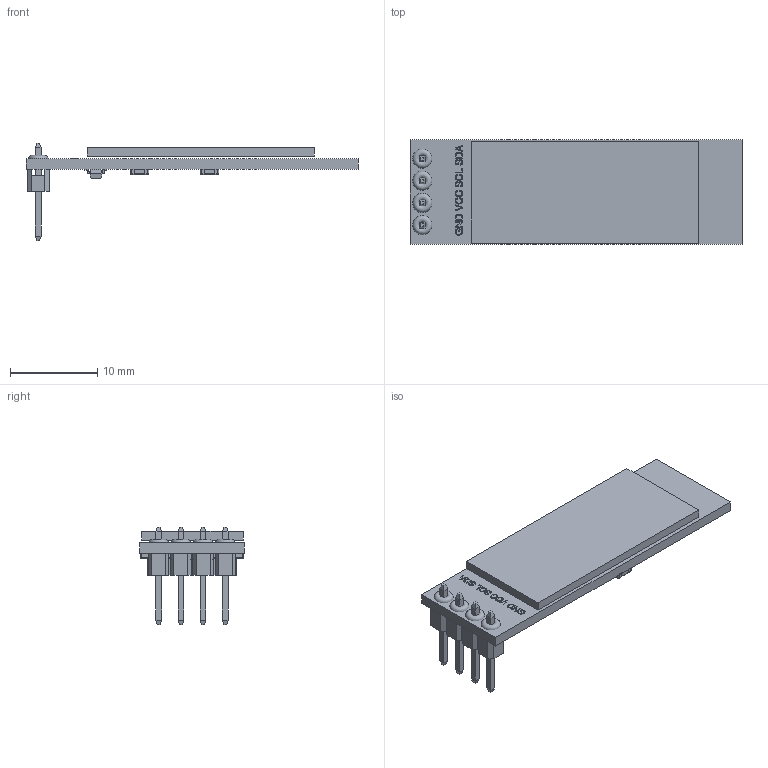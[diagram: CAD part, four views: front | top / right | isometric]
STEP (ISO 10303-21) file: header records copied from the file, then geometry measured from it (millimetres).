
FILE_DESCRIPTION(('FreeCAD Model'),'2;1');
FILE_NAME('F:/Downloads/OLED 128x32 Display.step','2017-07-12T22:20:10', ('Author'),(''),'Open CASCADE STEP processor 6.8','FreeCAD','Unknown' );
FILE_SCHEMA(('AUTOMOTIVE_DESIGN_CC2 { 1 2 10303 214 -1 1 5 4 }'));
Length unit declared in the file: millimetre
Products named in the file (20): ASSEMBLY; Fusion; SOLID005; SOLID007; SOLID006; SOLID003; SOLID004; SOLID008; SOLID009; SOLID011; SOLID012; SOLID010; ShapeString; Array; SOLID; SOLID001; SOLID002; Würfel; Würfel001; PZ_TransistorSMD
Assembly tree (19 placements, depth 2):
  ASSEMBLY
    Fusion
    SOLID005
    SOLID007
    SOLID006
    SOLID003
    SOLID004
    SOLID008
    SOLID009
    SOLID011
    SOLID012
    SOLID010
    ShapeString
    Array
    SOLID
    SOLID001
    SOLID002
    Würfel
    Würfel001
    PZ_TransistorSMD
Bounding box: 38 x 12 x 11.2 mm (x, y, z)
Volume: 950.9 mm3; surface area: 2120.8 mm2
Topology: 21 solids, 33 shells, 765 faces, 2061 edges, 1246 vertices
Faces by surface type: plane 353, cylinder 272, sphere 104, bspline 32, torus 4
Entity records: 87271 total; most frequent: CARTESIAN_POINT 49656, DIRECTION 5567, ORIENTED_EDGE 3700, PCURVE 3700, DEFINITIONAL_REPRESENTATION 3700, LINE 2493, VECTOR 2493, EDGE_CURVE 1949
